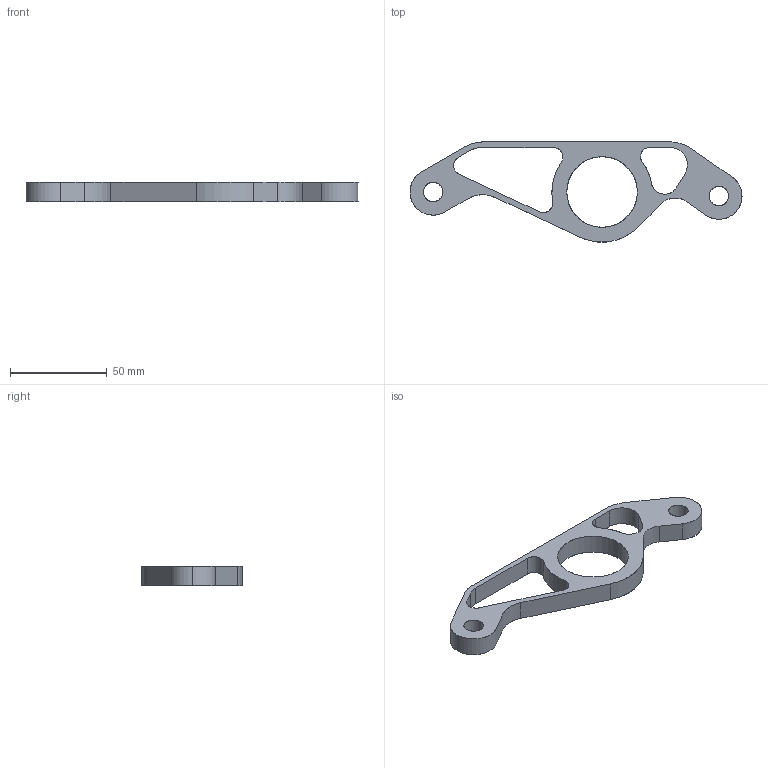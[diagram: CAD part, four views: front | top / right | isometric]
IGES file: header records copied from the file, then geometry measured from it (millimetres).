
Start section: SolidWorks IGES file using analytic representation for surfaces
Global section: file name: E:\Nouveau dossier\tarek\mécaniquee\L3GMCFM\TP0\EX15.IGS; native system: SolidWorks 2013; preprocessor: SolidWorks 2013; author: LENOVO; date: 180923.193958; units: millimetre
Bounding box: 172 x 51.99 x 10 mm (x, y, z)
Surface area: 14065.9 mm2 (no closed solid volume)
Topology: 0 solids, 0 shells, 40 faces, 770 edges, 770 vertices
Faces by surface type: revolution 26, bspline 14
